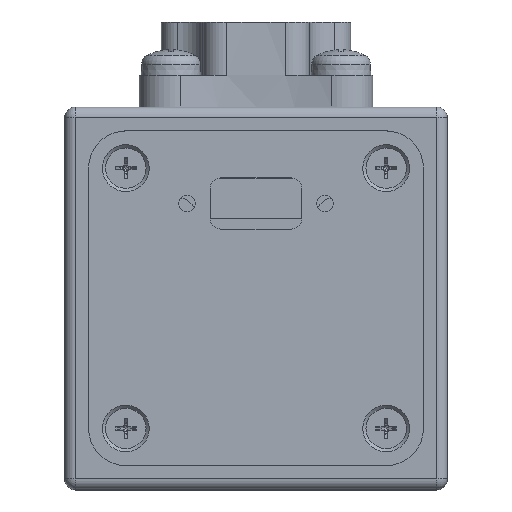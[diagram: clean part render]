
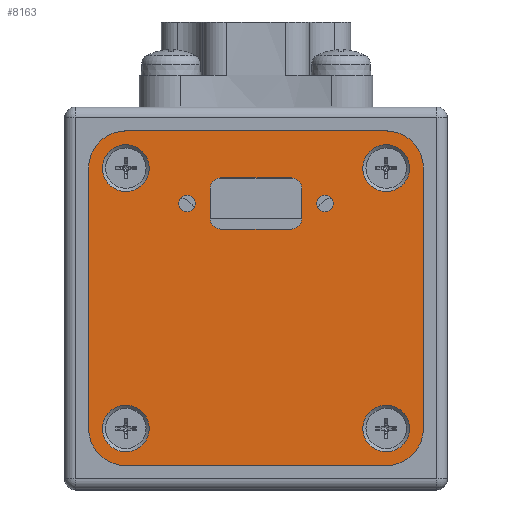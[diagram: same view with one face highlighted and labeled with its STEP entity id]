
A CAD part, top view. The second image highlights one B-rep face of the part: STEP entity #8163.
In plain terms, the highlighted planar face has unit normal (0, 0, 1).
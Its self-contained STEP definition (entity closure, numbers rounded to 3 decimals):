
#301=FACE_BOUND('',#1239,.T.);
#302=FACE_BOUND('',#1240,.T.);
#303=FACE_BOUND('',#1241,.T.);
#304=FACE_BOUND('',#1242,.T.);
#305=FACE_BOUND('',#1243,.T.);
#306=FACE_BOUND('',#1244,.T.);
#307=FACE_BOUND('',#1245,.T.);
#442=PLANE('',#9030);
#760=FACE_OUTER_BOUND('',#1238,.T.);
#1238=EDGE_LOOP('',(#6199,#6200,#6201,#6202,#6203,#6204,#6205,#6206));
#1239=EDGE_LOOP('',(#6207));
#1240=EDGE_LOOP('',(#6208));
#1241=EDGE_LOOP('',(#6209));
#1242=EDGE_LOOP('',(#6210));
#1243=EDGE_LOOP('',(#6211));
#1244=EDGE_LOOP('',(#6212));
#1245=EDGE_LOOP('',(#6213,#6214,#6215,#6216,#6217,#6218,#6219,#6220));
#1802=LINE('',#13643,#2374);
#1805=LINE('',#13651,#2377);
#1809=LINE('',#13660,#2381);
#1811=LINE('',#13666,#2383);
#1837=LINE('',#13724,#2409);
#1840=LINE('',#13732,#2412);
#1843=LINE('',#13740,#2415);
#1845=LINE('',#13746,#2417);
#2374=VECTOR('',#10627,10.);
#2377=VECTOR('',#10636,10.);
#2381=VECTOR('',#10646,10.);
#2383=VECTOR('',#10654,10.);
#2409=VECTOR('',#10706,10.);
#2412=VECTOR('',#10715,10.);
#2415=VECTOR('',#10724,10.);
#2417=VECTOR('',#10732,10.);
#2829=CIRCLE('',#8895,2.2);
#2831=CIRCLE('',#8899,2.2);
#2833=CIRCLE('',#8903,2.2);
#2835=CIRCLE('',#8907,2.2);
#2837=CIRCLE('',#8911,0.784);
#2838=CIRCLE('',#8913,0.784);
#2881=CIRCLE('',#8997,1.);
#2882=CIRCLE('',#9000,1.);
#2883=CIRCLE('',#9003,1.);
#2884=CIRCLE('',#9006,1.);
#2888=CIRCLE('',#9019,3.5);
#2889=CIRCLE('',#9022,3.5);
#2890=CIRCLE('',#9025,3.5);
#2891=CIRCLE('',#9028,3.5);
#3459=VERTEX_POINT('',#13400);
#3461=VERTEX_POINT('',#13408);
#3463=VERTEX_POINT('',#13416);
#3465=VERTEX_POINT('',#13424);
#3467=VERTEX_POINT('',#13432);
#3468=VERTEX_POINT('',#13436);
#3531=VERTEX_POINT('',#13636);
#3532=VERTEX_POINT('',#13637);
#3533=VERTEX_POINT('',#13642);
#3534=VERTEX_POINT('',#13646);
#3535=VERTEX_POINT('',#13650);
#3536=VERTEX_POINT('',#13654);
#3537=VERTEX_POINT('',#13655);
#3538=VERTEX_POINT('',#13662);
#3555=VERTEX_POINT('',#13716);
#3556=VERTEX_POINT('',#13718);
#3557=VERTEX_POINT('',#13722);
#3558=VERTEX_POINT('',#13726);
#3559=VERTEX_POINT('',#13730);
#3560=VERTEX_POINT('',#13734);
#3561=VERTEX_POINT('',#13738);
#3562=VERTEX_POINT('',#13742);
#4357=EDGE_CURVE('',#3459,#3459,#2829,.T.);
#4361=EDGE_CURVE('',#3461,#3461,#2831,.T.);
#4365=EDGE_CURVE('',#3463,#3463,#2833,.T.);
#4369=EDGE_CURVE('',#3465,#3465,#2835,.T.);
#4373=EDGE_CURVE('',#3467,#3467,#2837,.T.);
#4375=EDGE_CURVE('',#3468,#3468,#2838,.T.);
#4471=EDGE_CURVE('',#3531,#3532,#2881,.T.);
#4474=EDGE_CURVE('',#3533,#3532,#1802,.T.);
#4476=EDGE_CURVE('',#3533,#3534,#2882,.T.);
#4478=EDGE_CURVE('',#3535,#3534,#1805,.T.);
#4480=EDGE_CURVE('',#3536,#3537,#2883,.T.);
#4483=EDGE_CURVE('',#3531,#3537,#1809,.T.);
#4484=EDGE_CURVE('',#3535,#3538,#2884,.T.);
#4486=EDGE_CURVE('',#3536,#3538,#1811,.T.);
#4513=EDGE_CURVE('',#3555,#3556,#2888,.T.);
#4516=EDGE_CURVE('',#3557,#3555,#1837,.T.);
#4518=EDGE_CURVE('',#3558,#3557,#2889,.T.);
#4520=EDGE_CURVE('',#3559,#3558,#1840,.T.);
#4522=EDGE_CURVE('',#3560,#3559,#2890,.T.);
#4524=EDGE_CURVE('',#3561,#3560,#1843,.T.);
#4526=EDGE_CURVE('',#3562,#3561,#2891,.T.);
#4527=EDGE_CURVE('',#3556,#3562,#1845,.T.);
#6199=ORIENTED_EDGE('',*,*,#4527,.F.);
#6200=ORIENTED_EDGE('',*,*,#4513,.F.);
#6201=ORIENTED_EDGE('',*,*,#4516,.F.);
#6202=ORIENTED_EDGE('',*,*,#4518,.F.);
#6203=ORIENTED_EDGE('',*,*,#4520,.F.);
#6204=ORIENTED_EDGE('',*,*,#4522,.F.);
#6205=ORIENTED_EDGE('',*,*,#4524,.F.);
#6206=ORIENTED_EDGE('',*,*,#4526,.F.);
#6207=ORIENTED_EDGE('',*,*,#4357,.T.);
#6208=ORIENTED_EDGE('',*,*,#4361,.T.);
#6209=ORIENTED_EDGE('',*,*,#4365,.T.);
#6210=ORIENTED_EDGE('',*,*,#4369,.T.);
#6211=ORIENTED_EDGE('',*,*,#4373,.T.);
#6212=ORIENTED_EDGE('',*,*,#4375,.T.);
#6213=ORIENTED_EDGE('',*,*,#4486,.T.);
#6214=ORIENTED_EDGE('',*,*,#4484,.F.);
#6215=ORIENTED_EDGE('',*,*,#4478,.T.);
#6216=ORIENTED_EDGE('',*,*,#4476,.F.);
#6217=ORIENTED_EDGE('',*,*,#4474,.T.);
#6218=ORIENTED_EDGE('',*,*,#4471,.F.);
#6219=ORIENTED_EDGE('',*,*,#4483,.T.);
#6220=ORIENTED_EDGE('',*,*,#4480,.F.);
#8163=ADVANCED_FACE('',(#760,#301,#302,#303,#304,#305,#306,#307),#442,.F.);
#8895=AXIS2_PLACEMENT_3D('',#13401,#10355,#10356);
#8899=AXIS2_PLACEMENT_3D('',#13409,#10365,#10366);
#8903=AXIS2_PLACEMENT_3D('',#13417,#10375,#10376);
#8907=AXIS2_PLACEMENT_3D('',#13425,#10385,#10386);
#8911=AXIS2_PLACEMENT_3D('',#13433,#10395,#10396);
#8913=AXIS2_PLACEMENT_3D('',#13437,#10400,#10401);
#8997=AXIS2_PLACEMENT_3D('',#13638,#10621,#10622);
#9000=AXIS2_PLACEMENT_3D('',#13647,#10631,#10632);
#9003=AXIS2_PLACEMENT_3D('',#13656,#10640,#10641);
#9006=AXIS2_PLACEMENT_3D('',#13663,#10649,#10650);
#9019=AXIS2_PLACEMENT_3D('',#13719,#10700,#10701);
#9022=AXIS2_PLACEMENT_3D('',#13728,#10710,#10711);
#9025=AXIS2_PLACEMENT_3D('',#13736,#10719,#10720);
#9028=AXIS2_PLACEMENT_3D('',#13744,#10728,#10729);
#9030=AXIS2_PLACEMENT_3D('',#13747,#10733,#10734);
#10355=DIRECTION('center_axis',(0.,0.,
-1.));
#10356=DIRECTION('ref_axis',(1.,0.,0.));
#10365=DIRECTION('center_axis',(0.,0.,
-1.));
#10366=DIRECTION('ref_axis',(1.,0.,0.));
#10375=DIRECTION('center_axis',(0.,0.,
-1.));
#10376=DIRECTION('ref_axis',(1.,0.,0.));
#10385=DIRECTION('center_axis',(0.,0.,
-1.));
#10386=DIRECTION('ref_axis',(1.,0.,0.));
#10395=DIRECTION('center_axis',(0.,0.,
-1.));
#10396=DIRECTION('ref_axis',(1.,0.,0.));
#10400=DIRECTION('center_axis',(0.,0.,
-1.));
#10401=DIRECTION('ref_axis',(1.,0.,0.));
#10621=DIRECTION('center_axis',(0.,0.,
1.));
#10622=DIRECTION('ref_axis',(0.707,-0.707,0.));
#10627=DIRECTION('',(0.,-1.,0.));
#10631=DIRECTION('center_axis',(0.,0.,
1.));
#10632=DIRECTION('ref_axis',(0.707,0.707,0.));
#10636=DIRECTION('',(1.,0.,0.));
#10640=DIRECTION('center_axis',(0.,0.,
1.));
#10641=DIRECTION('ref_axis',(-0.707,-0.707,0.));
#10646=DIRECTION('',(-1.,0.,0.));
#10649=DIRECTION('center_axis',(0.,0.,
1.));
#10650=DIRECTION('ref_axis',(-0.707,0.707,0.));
#10654=DIRECTION('',(0.,1.,0.));
#10700=DIRECTION('center_axis',(0.,0.,
-1.));
#10701=DIRECTION('ref_axis',(0.,-1.,0.));
#10706=DIRECTION('',(0.,1.,0.));
#10710=DIRECTION('center_axis',(0.,0.,
-1.));
#10711=DIRECTION('ref_axis',(1.,0.,0.));
#10715=DIRECTION('',(-1.,0.,0.));
#10719=DIRECTION('center_axis',(0.,0.,
-1.));
#10720=DIRECTION('ref_axis',(0.,1.,0.));
#10724=DIRECTION('',(0.,-1.,0.));
#10728=DIRECTION('center_axis',(0.,0.,
-1.));
#10729=DIRECTION('ref_axis',(-1.,0.,0.));
#10732=DIRECTION('',(1.,0.,0.));
#10733=DIRECTION('center_axis',(0.,0.,
-1.));
#10734=DIRECTION('ref_axis',(-1.,0.,0.));
#13400=CARTESIAN_POINT('',(10.05,-12.25,22.5));
#13401=CARTESIAN_POINT('Origin',(12.25,-12.25,22.5));
#13408=CARTESIAN_POINT('',(-14.45,12.25,22.5));
#13409=CARTESIAN_POINT('Origin',(-12.25,12.25,22.5));
#13416=CARTESIAN_POINT('',(10.05,12.25,22.5));
#13417=CARTESIAN_POINT('Origin',(12.25,12.25,22.5));
#13424=CARTESIAN_POINT('',(-14.45,-12.25,22.5));
#13425=CARTESIAN_POINT('Origin',(-12.25,-12.25,22.5));
#13432=CARTESIAN_POINT('',(-7.284,8.92,22.5));
#13433=CARTESIAN_POINT('Origin',(-6.5,8.92,22.5));
#13436=CARTESIAN_POINT('',(5.717,8.92,22.5));
#13437=CARTESIAN_POINT('Origin',(6.5,8.92,22.5));
#13636=CARTESIAN_POINT('',(3.3,6.52,22.5));
#13637=CARTESIAN_POINT('',(4.3,7.52,22.5));
#13638=CARTESIAN_POINT('Origin',(3.3,7.52,22.5));
#13642=CARTESIAN_POINT('',(4.3,10.32,22.5));
#13643=CARTESIAN_POINT('',(4.3,5.66,22.5));
#13646=CARTESIAN_POINT('',(3.3,11.32,22.5));
#13647=CARTESIAN_POINT('Origin',(3.3,10.32,22.5));
#13650=CARTESIAN_POINT('',(-3.3,11.32,22.5));
#13651=CARTESIAN_POINT('',(-2.15,11.32,22.5));
#13654=CARTESIAN_POINT('',(-4.3,7.52,22.5));
#13655=CARTESIAN_POINT('',(-3.3,6.52,22.5));
#13656=CARTESIAN_POINT('Origin',(-3.3,7.52,22.5));
#13660=CARTESIAN_POINT('',(2.15,6.52,22.5));
#13662=CARTESIAN_POINT('',(-4.3,10.32,22.5));
#13663=CARTESIAN_POINT('Origin',(-3.3,10.32,22.5));
#13666=CARTESIAN_POINT('',(-4.3,3.26,22.5));
#13716=CARTESIAN_POINT('',(-15.75,12.25,22.5));
#13718=CARTESIAN_POINT('',(-12.25,15.75,22.5));
#13719=CARTESIAN_POINT('Origin',(-12.25,12.25,22.5));
#13722=CARTESIAN_POINT('',(-15.75,-12.25,22.5));
#13724=CARTESIAN_POINT('',(-15.75,-12.25,22.5));
#13726=CARTESIAN_POINT('',(-12.25,-15.75,22.5));
#13728=CARTESIAN_POINT('Origin',(-12.25,-12.25,22.5));
#13730=CARTESIAN_POINT('',(12.25,-15.75,22.5));
#13732=CARTESIAN_POINT('',(12.25,-15.75,22.5));
#13734=CARTESIAN_POINT('',(15.75,-12.25,22.5));
#13736=CARTESIAN_POINT('Origin',(12.25,-12.25,22.5));
#13738=CARTESIAN_POINT('',(15.75,12.25,22.5));
#13740=CARTESIAN_POINT('',(15.75,12.25,22.5));
#13742=CARTESIAN_POINT('',(12.25,15.75,22.5));
#13744=CARTESIAN_POINT('Origin',(12.25,12.25,22.5));
#13746=CARTESIAN_POINT('',(-12.25,15.75,22.5));
#13747=CARTESIAN_POINT('Origin',(0.,0.,
22.5));
